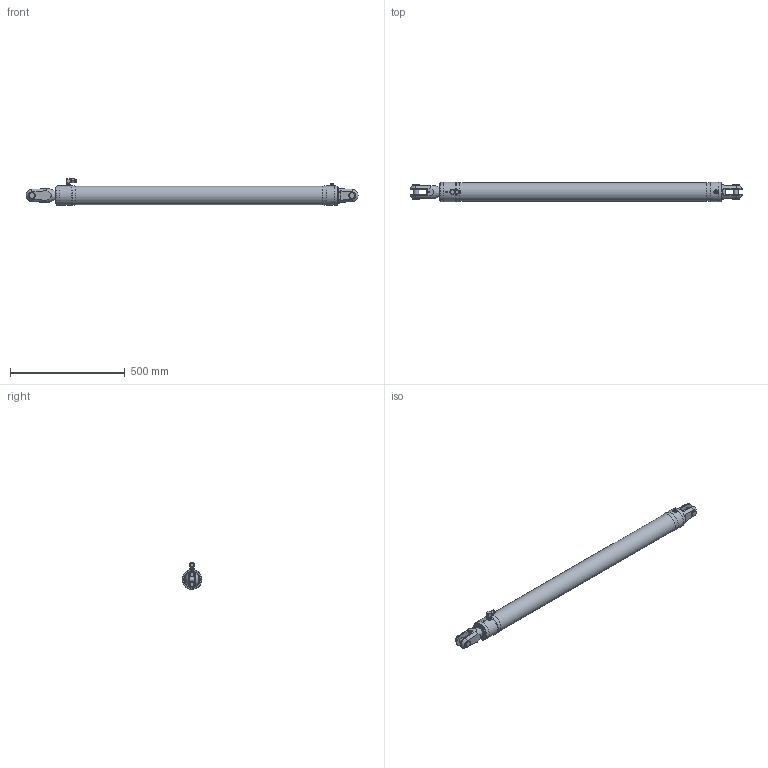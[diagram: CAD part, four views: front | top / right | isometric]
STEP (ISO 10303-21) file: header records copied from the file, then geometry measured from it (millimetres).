
FILE_DESCRIPTION(/* description */ (''),/* implementation_level */ '2;1');
FILE_NAME(/* name */ 'Q:\AA BRAND HYDRAULICS\HYDRAULICS FAMILY DIRECTORY\HYDRAULICS\CYLINDERS\RAMS\ALUMINIUM - STANDARD SINGLE ACTING (-0006 To -0260)\RSA-0030-S1025-NP-71\RSA-0030-S1025-NP-71 (Closed).stp',/* time_stamp */ '2018-02-21T14:12:41+00:00',/* author */ ('Lorena'),/* organization */ (''),/* preprocessor_version */ 'ST-DEVELOPER v17',/* originating_system */ 'Autodesk Inventor 2018',/* authorisation */ '');
FILE_SCHEMA (('AUTOMOTIVE_DESIGN { 1 0 10303 214 3 1 1 }'));
Products named in the file (1): RSA-0030-S1025-NP-71 (Closed)
Bounding box: 1448.41 x 85.6 x 116.4 mm (x, y, z)
Volume: 7060462.7 mm3; surface area: 391160.8 mm2
Topology: 2 solids, 4 shells, 1727 faces, 4665 edges, 3093 vertices
Faces by surface type: plane 965, bspline 573, cone 103, cylinder 78, sphere 4, torus 4
Full cylindrical faces by diameter (mm): 4 x1, 4.134 x1, 4.2 x2, 4.4 x1, 5 x1, 5.1 x1, 7 x1, 9 x1, 10 x2, 11.11 x1, 11.157 x1, 11.5 x1, 11.8 x1, 12 x1, 12.157 x1, 13 x1, 13.157 x2, 14.5 x2, 16 x2, 18.3 x3, 22 x1, 22.23 x2, 24 x1, 27.788 x2, 82.6 x1, 85.6 x4
Entity records: 61740 total; most frequent: CARTESIAN_POINT 20566, ORIENTED_EDGE 9316, DIRECTION 6058, EDGE_CURVE 4658, VERTEX_POINT 3094, LINE 2898, VECTOR 2898, EDGE_LOOP 1890
